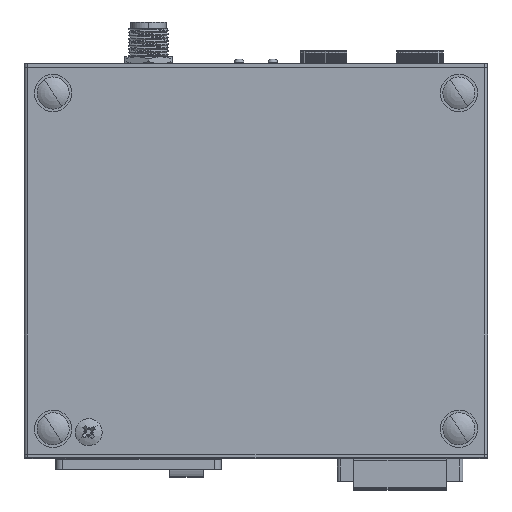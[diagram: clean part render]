
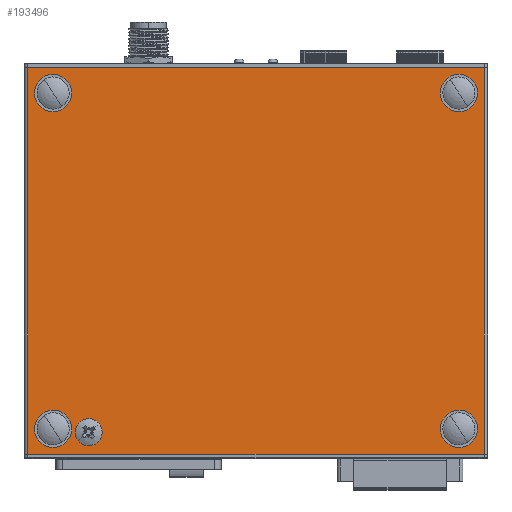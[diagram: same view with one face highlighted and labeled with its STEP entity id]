
A CAD part, front view. The second image highlights one B-rep face of the part: STEP entity #193496.
In plain terms, the highlighted planar face has unit normal (0, -1, 0).
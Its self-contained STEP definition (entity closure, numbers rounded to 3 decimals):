
#975 = DIRECTION ( 'NONE',  ( 0., 0., 1. ) ) ;
#8313 = CARTESIAN_POINT ( 'NONE',  ( -122.178, -18.043, 57.235 ) ) ;
#11563 = EDGE_CURVE ( 'NONE', #69437, #242759, #58960, .T. ) ;
#20860 = EDGE_LOOP ( 'NONE', ( #213518, #172310, #78190, #113450 ) ) ;
#22961 = CARTESIAN_POINT ( 'NONE',  ( -103.178, -18.043, -50.565 ) ) ;
#27966 = DIRECTION ( 'NONE',  ( 0., 1., 0. ) ) ;
#33185 = FACE_BOUND ( 'NONE', #157977, .T. ) ;
#35247 = LINE ( 'NONE', #8313, #114638 ) ;
#39864 = FACE_OUTER_BOUND ( 'NONE', #20860, .T. ) ;
#43158 = ORIENTED_EDGE ( 'NONE', *, *, #71630, .F. ) ;
#43961 = LINE ( 'NONE', #171791, #46346 ) ;
#46346 = VECTOR ( 'NONE', #144936, 1000. ) ;
#50601 = VERTEX_POINT ( 'NONE', #68002 ) ;
#54744 = CARTESIAN_POINT ( 'NONE',  ( -122.178, -18.043, 57.235 ) ) ;
#58960 = LINE ( 'NONE', #240427, #144310 ) ;
#59694 = ORIENTED_EDGE ( 'NONE', *, *, #124024, .F. ) ;
#68002 = CARTESIAN_POINT ( 'NONE',  ( -103.178, -18.043, -52.565 ) ) ;
#69437 = VERTEX_POINT ( 'NONE', #242851 ) ;
#71630 = EDGE_CURVE ( 'NONE', #50601, #261329, #174189, .T. ) ;
#74806 = DIRECTION ( 'NONE',  ( 0., 0., -1. ) ) ;
#78190 = ORIENTED_EDGE ( 'NONE', *, *, #171865, .F. ) ;
#81548 = PLANE ( 'NONE',  #234179 ) ;
#83555 = AXIS2_PLACEMENT_3D ( 'NONE', #128439, #101690, #74806 ) ;
#101690 = DIRECTION ( 'NONE',  ( 0., -1., 0. ) ) ;
#113450 = ORIENTED_EDGE ( 'NONE', *, *, #199092, .T. ) ;
#114638 = VECTOR ( 'NONE', #243491, 1000. ) ;
#124024 = EDGE_CURVE ( 'NONE', #261329, #50601, #210351, .T. ) ;
#128439 = CARTESIAN_POINT ( 'NONE',  ( -103.178, -18.043, -50.565 ) ) ;
#140393 = AXIS2_PLACEMENT_3D ( 'NONE', #22961, #258032, #231263 ) ;
#144310 = VECTOR ( 'NONE', #213595, 1000. ) ;
#144936 = DIRECTION ( 'NONE',  ( 0., 0., -1. ) ) ;
#148063 = VECTOR ( 'NONE', #205747, 1000. ) ;
#153878 = CARTESIAN_POINT ( 'NONE',  ( 13.822, -18.043, 57.235 ) ) ;
#157977 = EDGE_LOOP ( 'NONE', ( #43158, #59694 ) ) ;
#171791 = CARTESIAN_POINT ( 'NONE',  ( -121.178, -18.043, 57.235 ) ) ;
#171865 = EDGE_CURVE ( 'NONE', #243643, #242759, #35247, .T. ) ;
#172310 = ORIENTED_EDGE ( 'NONE', *, *, #11563, .T. ) ;
#173409 = CARTESIAN_POINT ( 'NONE',  ( -121.178, -18.043, 57.235 ) ) ;
#174189 = CIRCLE ( 'NONE', #140393, 2. ) ;
#184024 = CARTESIAN_POINT ( 'NONE',  ( -103.178, -18.043, -48.565 ) ) ;
#185621 = VERTEX_POINT ( 'NONE', #212150 ) ;
#193496 = ADVANCED_FACE ( 'NONE', ( #33185, #39864 ), #81548, .F. ) ;
#199092 = EDGE_CURVE ( 'NONE', #243643, #185621, #43961, .T. ) ;
#205747 = DIRECTION ( 'NONE',  ( 1., 0., 0. ) ) ;
#210351 = CIRCLE ( 'NONE', #83555, 2. ) ;
#212150 = CARTESIAN_POINT ( 'NONE',  ( -121.178, -18.043, -57.065 ) ) ;
#213518 = ORIENTED_EDGE ( 'NONE', *, *, #226183, .T. ) ;
#213595 = DIRECTION ( 'NONE',  ( 0., 0., 1. ) ) ;
#226183 = EDGE_CURVE ( 'NONE', #185621, #69437, #259385, .T. ) ;
#231263 = DIRECTION ( 'NONE',  ( 0., 0., -1. ) ) ;
#232580 = CARTESIAN_POINT ( 'NONE',  ( -122.178, -18.043, -57.065 ) ) ;
#234179 = AXIS2_PLACEMENT_3D ( 'NONE', #54744, #27966, #975 ) ;
#240427 = CARTESIAN_POINT ( 'NONE',  ( 13.822, -18.043, 57.235 ) ) ;
#242759 = VERTEX_POINT ( 'NONE', #153878 ) ;
#242851 = CARTESIAN_POINT ( 'NONE',  ( 13.822, -18.043, -57.065 ) ) ;
#243491 = DIRECTION ( 'NONE',  ( 1., 0., 0. ) ) ;
#243643 = VERTEX_POINT ( 'NONE', #173409 ) ;
#258032 = DIRECTION ( 'NONE',  ( 0., -1., 0. ) ) ;
#259385 = LINE ( 'NONE', #232580, #148063 ) ;
#261329 = VERTEX_POINT ( 'NONE', #184024 ) ;
